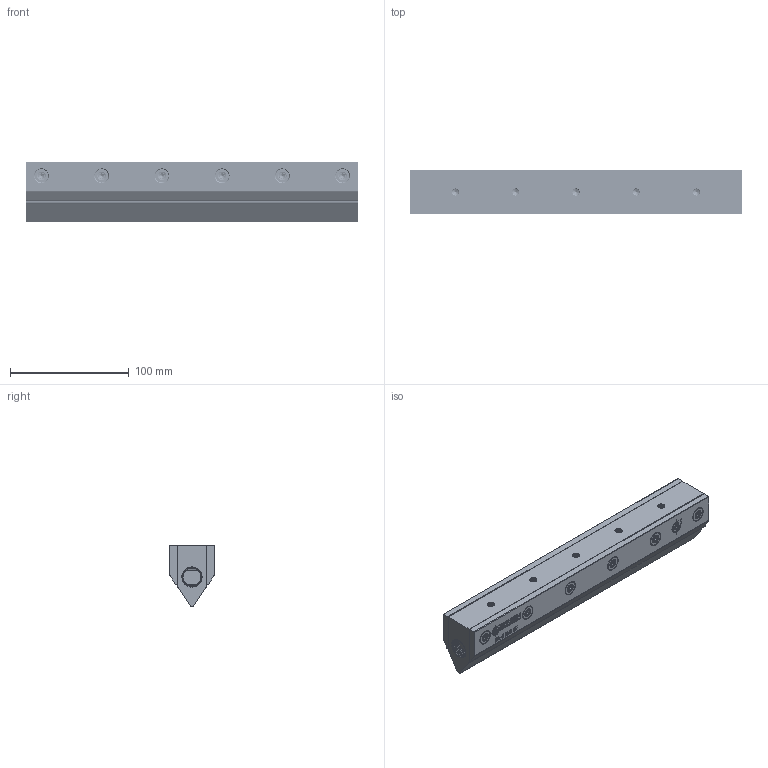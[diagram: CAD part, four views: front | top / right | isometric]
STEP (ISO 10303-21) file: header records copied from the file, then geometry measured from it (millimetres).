
FILE_DESCRIPTION (( 'STEP AP214' ), '1' );
FILE_NAME ('STEP - RA-2_250_DF.STEP', '2023-07-12T15:09:39', ( '' ), ( '' ), 'SwSTEP 2.0', 'SolidWorks 2021', '' );
FILE_SCHEMA (( 'AUTOMOTIVE_DESIGN' ));
Length unit declared in the file: millimetre
Products named in the file (1): STEP - RA-2_250_DF
Bounding box: 280 x 37.26 x 51.3 mm (x, y, z)
Volume: 401199.2 mm3; surface area: 63288.8 mm2
Topology: 13 solids, 13 shells, 2255 faces, 6084 edges, 4031 vertices
Faces by surface type: plane 1203, cylinder 477, bspline 463, cone 88, torus 24
Full cylindrical faces by diameter (mm): 5 x66, 6.5 x12, 11.3 x12
Entity records: 166075 total; most frequent: CARTESIAN_POINT 91633, ORIENTED_EDGE 11408, DIRECTION 8553, EDGE_CURVE 5704, VERTEX_POINT 3835, LINE 3511, VECTOR 3511, AXIS2_PLACEMENT_3D 2521
